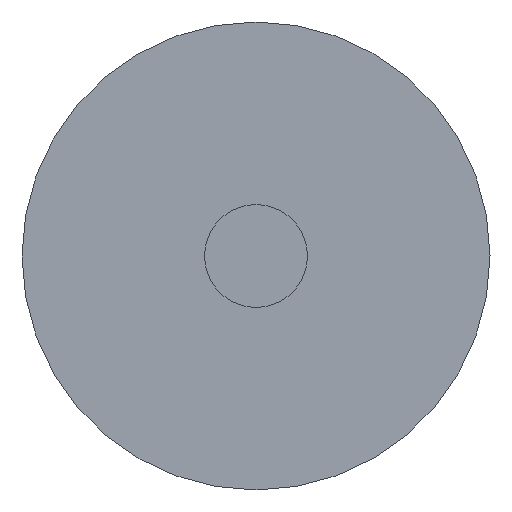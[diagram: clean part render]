
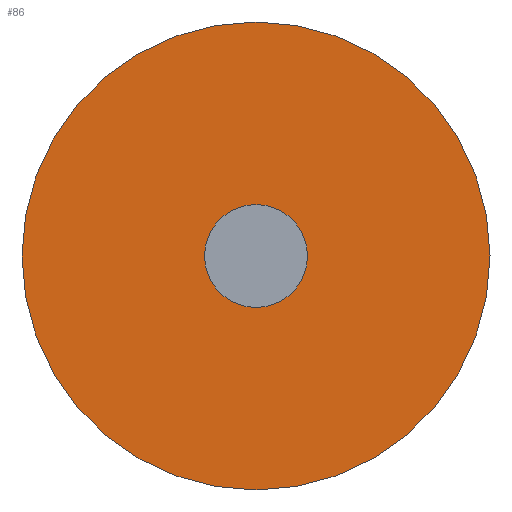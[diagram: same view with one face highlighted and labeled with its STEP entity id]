
A CAD part, left-side view. The second image highlights one B-rep face of the part: STEP entity #86.
In plain terms, the highlighted planar face has unit normal (-1, 0, 0).
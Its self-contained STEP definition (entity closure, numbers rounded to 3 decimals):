
#16=PLANE('',#101);
#26=FACE_OUTER_BOUND('',#36,.T.);
#36=EDGE_LOOP('',(#66));
#47=CIRCLE('',#100,1.25);
#53=VERTEX_POINT('',#149);
#59=EDGE_CURVE('',#53,#53,#47,.T.);
#66=ORIENTED_EDGE('',*,*,#59,.T.);
#86=ADVANCED_FACE('',(#26),#16,.F.);
#100=AXIS2_PLACEMENT_3D('',#150,#119,#120);
#101=AXIS2_PLACEMENT_3D('',#151,#121,#122);
#119=DIRECTION('center_axis',(-1.,0.,0.));
#120=DIRECTION('ref_axis',(0.,-1.,0.));
#121=DIRECTION('center_axis',(1.,0.,0.));
#122=DIRECTION('ref_axis',(0.,0.,-1.));
#149=CARTESIAN_POINT('',(0.,1.25,0.));
#150=CARTESIAN_POINT('Origin',(0.,0.,0.));
#151=CARTESIAN_POINT('Origin',(0.,0.,0.));
